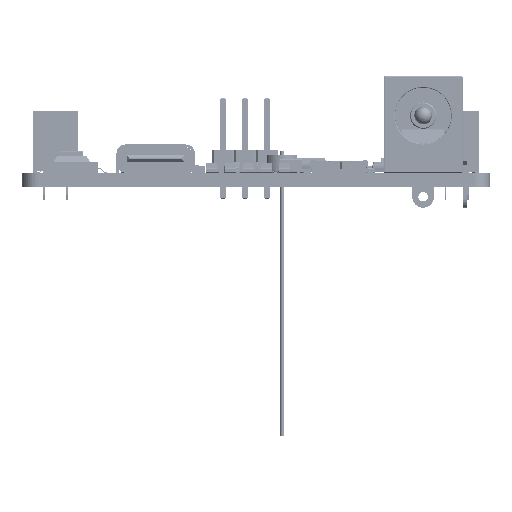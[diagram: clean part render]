
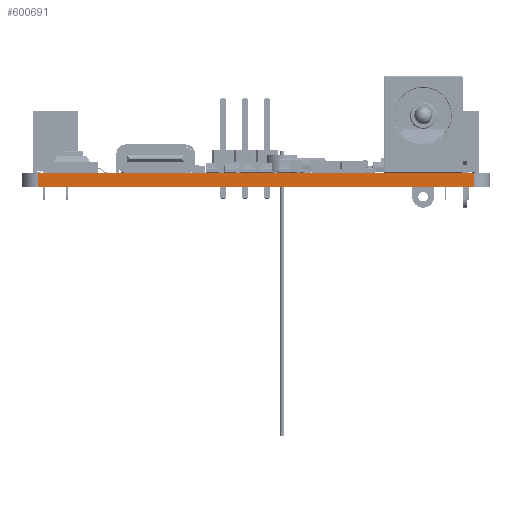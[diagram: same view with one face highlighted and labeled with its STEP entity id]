
A CAD part, left-side view. The second image highlights one B-rep face of the part: STEP entity #600691.
In plain terms, the highlighted planar face has unit normal (-1, 0, 0).
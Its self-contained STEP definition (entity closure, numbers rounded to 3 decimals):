
#595512 = VERTEX_POINT('',#595513);
#595513 = CARTESIAN_POINT('',(108.966,-88.138,0.));
#595520 = EDGE_CURVE('',#595512,#595521,#595523,.T.);
#595521 = VERTEX_POINT('',#595522);
#595522 = CARTESIAN_POINT('',(108.966,-38.354,0.));
#595523 = LINE('',#595524,#595525);
#595524 = CARTESIAN_POINT('',(108.966,-88.138,0.));
#595525 = VECTOR('',#595526,1.);
#595526 = DIRECTION('',(0.,1.,0.));
#598091 = VERTEX_POINT('',#598092);
#598092 = CARTESIAN_POINT('',(108.966,-88.138,1.6));
#598099 = EDGE_CURVE('',#598091,#598100,#598102,.T.);
#598100 = VERTEX_POINT('',#598101);
#598101 = CARTESIAN_POINT('',(108.966,-38.354,1.6));
#598102 = LINE('',#598103,#598104);
#598103 = CARTESIAN_POINT('',(108.966,-88.138,1.6));
#598104 = VECTOR('',#598105,1.);
#598105 = DIRECTION('',(0.,1.,0.));
#600661 = EDGE_CURVE('',#595521,#598100,#600662,.T.);
#600662 = LINE('',#600663,#600664);
#600663 = CARTESIAN_POINT('',(108.966,-38.354,0.));
#600664 = VECTOR('',#600665,1.);
#600665 = DIRECTION('',(0.,0.,1.));
#600691 = ADVANCED_FACE('',(#600692),#600703,.T.);
#600692 = FACE_BOUND('',#600693,.T.);
#600693 = EDGE_LOOP('',(#600694,#600700,#600701,#600702));
#600694 = ORIENTED_EDGE('',*,*,#600695,.T.);
#600695 = EDGE_CURVE('',#595512,#598091,#600696,.T.);
#600696 = LINE('',#600697,#600698);
#600697 = CARTESIAN_POINT('',(108.966,-88.138,0.));
#600698 = VECTOR('',#600699,1.);
#600699 = DIRECTION('',(0.,0.,1.));
#600700 = ORIENTED_EDGE('',*,*,#598099,.T.);
#600701 = ORIENTED_EDGE('',*,*,#600661,.F.);
#600702 = ORIENTED_EDGE('',*,*,#595520,.F.);
#600703 = PLANE('',#600704);
#600704 = AXIS2_PLACEMENT_3D('',#600705,#600706,#600707);
#600705 = CARTESIAN_POINT('',(108.966,-88.138,0.));
#600706 = DIRECTION('',(-1.,0.,0.));
#600707 = DIRECTION('',(0.,1.,0.));
